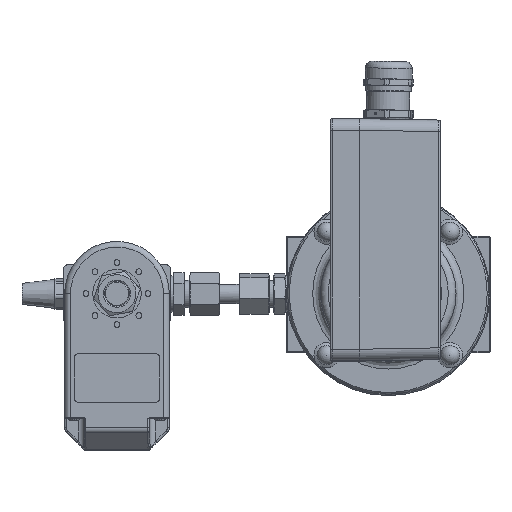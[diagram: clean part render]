
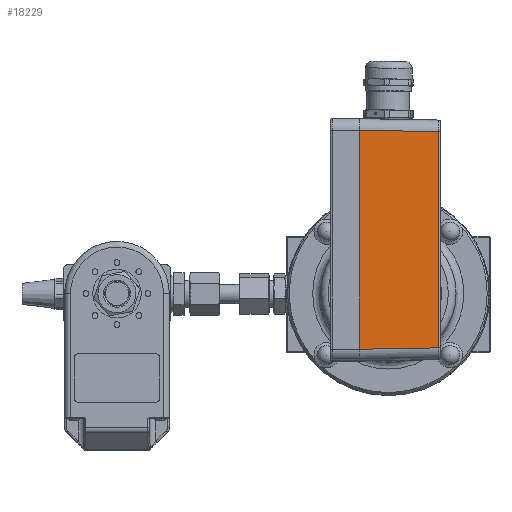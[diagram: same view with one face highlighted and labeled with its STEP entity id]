
A CAD part, top view. The second image highlights one B-rep face of the part: STEP entity #18229.
In plain terms, the highlighted planar face has unit normal (0.018, 0, 1).
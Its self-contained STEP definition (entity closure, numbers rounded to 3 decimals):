
#14219=CARTESIAN_POINT('',(-15.,-29.001,413.));
#14220=VERTEX_POINT('',#14219);
#14228=CARTESIAN_POINT('',(-15.,-29.,413.));
#14229=VERTEX_POINT('',#14228);
#14230=CARTESIAN_POINT('',(-15.,-29.,413.));
#14231=DIRECTION('',(0.,-1.0,0.));
#14232=VECTOR('',#14231,0.001);
#14233=LINE('',#14230,#14232);
#14234=EDGE_CURVE('',#14229,#14220,#14233,.T.);
#15365=CARTESIAN_POINT('',(-15.,84.,413.));
#15366=VERTEX_POINT('',#15365);
#15373=CARTESIAN_POINT('',(-15.,84.001,413.));
#15374=VERTEX_POINT('',#15373);
#15375=CARTESIAN_POINT('',(-15.,84.001,413.));
#15376=DIRECTION('',(0.,-1.0,0.));
#15377=VECTOR('',#15376,0.001);
#15378=LINE('',#15375,#15377);
#15379=EDGE_CURVE('',#15374,#15366,#15378,.T.);
#15472=CARTESIAN_POINT('',(-15.,84.,413.));
#15473=DIRECTION('',(0.0,-1.0,0.0));
#15474=VECTOR('',#15473,113.0);
#15475=LINE('',#15472,#15474);
#15476=EDGE_CURVE('',#15366,#14229,#15475,.T.);
#17919=CARTESIAN_POINT('',(26.017,-28.285,412.284));
#17920=VERTEX_POINT('',#17919);
#18027=CARTESIAN_POINT('',(26.017,83.285,412.284));
#18028=VERTEX_POINT('',#18027);
#18069=CARTESIAN_POINT('',(26.017,83.285,412.284));
#18070=DIRECTION('',(0.0,-1.0,0.0));
#18071=VECTOR('',#18070,111.57);
#18072=LINE('',#18069,#18071);
#18073=EDGE_CURVE('',#18028,#17920,#18072,.T.);
#18091=CARTESIAN_POINT('',(-15.,84.001,413.));
#18092=DIRECTION('',(1.,-0.017,-0.017));
#18093=VECTOR('',#18092,41.03);
#18094=LINE('',#18091,#18093);
#18095=EDGE_CURVE('',#15374,#18028,#18094,.T.);
#18205=CARTESIAN_POINT('',(26.017,-28.285,412.284));
#18206=DIRECTION('',(-1.,-0.017,0.017));
#18207=VECTOR('',#18206,41.03);
#18208=LINE('',#18205,#18207);
#18209=EDGE_CURVE('',#17920,#14220,#18208,.T.);
#18216=CARTESIAN_POINT('',(26.994,90.,412.267));
#18217=DIRECTION('',(0.017,0.,1.));
#18218=DIRECTION('',(1.,0.,-0.017));
#18219=AXIS2_PLACEMENT_3D('',#18216,#18217,#18218);
#18220=PLANE('',#18219);
#18221=ORIENTED_EDGE('',*,*,#18073,.F.);
#18222=ORIENTED_EDGE('',*,*,#18095,.F.);
#18223=ORIENTED_EDGE('',*,*,#15379,.T.);
#18224=ORIENTED_EDGE('',*,*,#15476,.T.);
#18225=ORIENTED_EDGE('',*,*,#14234,.T.);
#18226=ORIENTED_EDGE('',*,*,#18209,.F.);
#18227=EDGE_LOOP('',(#18221,#18222,#18223,#18224,#18225,#18226));
#18228=FACE_OUTER_BOUND('',#18227,.T.);
#18229=ADVANCED_FACE('',(#18228),#18220,.T.);
